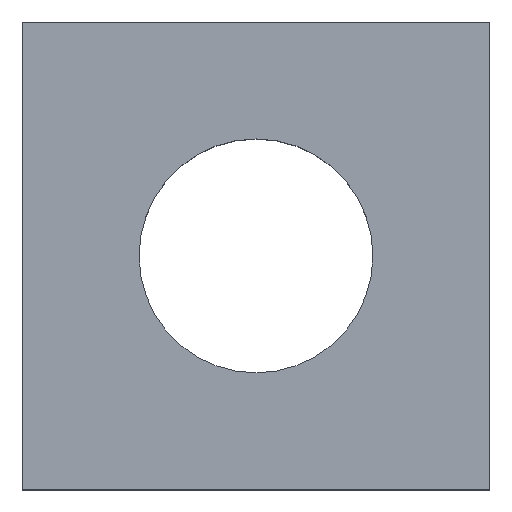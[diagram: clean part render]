
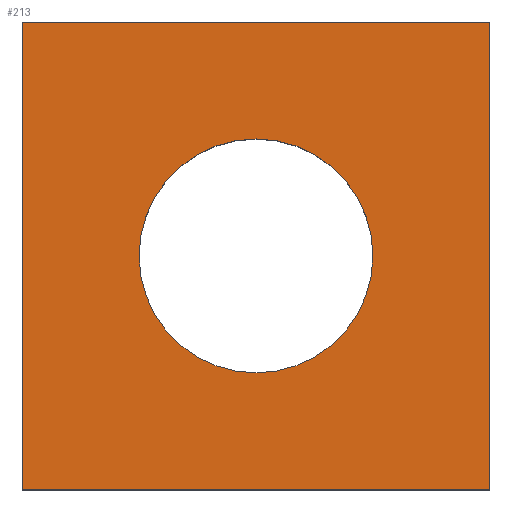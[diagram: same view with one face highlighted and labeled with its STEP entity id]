
A CAD part, top view. The second image highlights one B-rep face of the part: STEP entity #213.
In plain terms, the highlighted planar face has unit normal (0, 0, 1).
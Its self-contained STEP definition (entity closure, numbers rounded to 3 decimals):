
#24 = VERTEX_POINT('',#25);
#25 = CARTESIAN_POINT('',(12.,-22.793,-58.));
#32 = PLANE('',#33);
#33 = AXIS2_PLACEMENT_3D('',#34,#35,#36);
#34 = CARTESIAN_POINT('',(12.,-22.793,-59.2));
#35 = DIRECTION('',(1.,0.,-0.));
#36 = DIRECTION('',(0.,0.,1.));
#44 = PLANE('',#45);
#45 = AXIS2_PLACEMENT_3D('',#46,#47,#48);
#46 = CARTESIAN_POINT('',(12.,-22.793,-59.2));
#47 = DIRECTION('',(-0.,1.,0.));
#48 = DIRECTION('',(0.,0.,1.));
#85 = VERTEX_POINT('',#86);
#86 = CARTESIAN_POINT('',(12.,-18.793,-58.));
#100 = PLANE('',#101);
#101 = AXIS2_PLACEMENT_3D('',#102,#103,#104);
#102 = CARTESIAN_POINT('',(12.,-18.793,-59.2));
#103 = DIRECTION('',(-0.,1.,0.));
#104 = DIRECTION('',(0.,0.,1.));
#112 = EDGE_CURVE('',#24,#85,#113,.T.);
#113 = SURFACE_CURVE('',#114,(#118,#125),.PCURVE_S1.);
#114 = LINE('',#115,#116);
#115 = CARTESIAN_POINT('',(12.,-22.793,-58.));
#116 = VECTOR('',#117,1.);
#117 = DIRECTION('',(-0.,1.,0.));
#118 = PCURVE('',#32,#119);
#119 = DEFINITIONAL_REPRESENTATION('',(#120),#124);
#120 = LINE('',#121,#122);
#121 = CARTESIAN_POINT('',(1.2,0.));
#122 = VECTOR('',#123,1.);
#123 = DIRECTION('',(0.,-1.));
#124 = ( GEOMETRIC_REPRESENTATION_CONTEXT(2) 
PARAMETRIC_REPRESENTATION_CONTEXT() REPRESENTATION_CONTEXT('2D SPACE',''
  ) );
#125 = PCURVE('',#126,#131);
#126 = PLANE('',#127);
#127 = AXIS2_PLACEMENT_3D('',#128,#129,#130);
#128 = CARTESIAN_POINT('',(12.,-22.793,-58.));
#129 = DIRECTION('',(0.,0.,1.));
#130 = DIRECTION('',(1.,0.,-0.));
#131 = DEFINITIONAL_REPRESENTATION('',(#132),#136);
#132 = LINE('',#133,#134);
#133 = CARTESIAN_POINT('',(0.,0.));
#134 = VECTOR('',#135,1.);
#135 = DIRECTION('',(0.,1.));
#136 = ( GEOMETRIC_REPRESENTATION_CONTEXT(2) 
PARAMETRIC_REPRESENTATION_CONTEXT() REPRESENTATION_CONTEXT('2D SPACE',''
  ) );
#165 = EDGE_CURVE('',#24,#166,#168,.T.);
#166 = VERTEX_POINT('',#167);
#167 = CARTESIAN_POINT('',(16.,-22.793,-58.));
#168 = SURFACE_CURVE('',#169,(#173,#180),.PCURVE_S1.);
#169 = LINE('',#170,#171);
#170 = CARTESIAN_POINT('',(12.,-22.793,-58.));
#171 = VECTOR('',#172,1.);
#172 = DIRECTION('',(1.,0.,-0.));
#173 = PCURVE('',#44,#174);
#174 = DEFINITIONAL_REPRESENTATION('',(#175),#179);
#175 = LINE('',#176,#177);
#176 = CARTESIAN_POINT('',(1.2,0.));
#177 = VECTOR('',#178,1.);
#178 = DIRECTION('',(0.,1.));
#179 = ( GEOMETRIC_REPRESENTATION_CONTEXT(2) 
PARAMETRIC_REPRESENTATION_CONTEXT() REPRESENTATION_CONTEXT('2D SPACE',''
  ) );
#180 = PCURVE('',#126,#181);
#181 = DEFINITIONAL_REPRESENTATION('',(#182),#186);
#182 = LINE('',#183,#184);
#183 = CARTESIAN_POINT('',(0.,0.));
#184 = VECTOR('',#185,1.);
#185 = DIRECTION('',(1.,0.));
#186 = ( GEOMETRIC_REPRESENTATION_CONTEXT(2) 
PARAMETRIC_REPRESENTATION_CONTEXT() REPRESENTATION_CONTEXT('2D SPACE',''
  ) );
#202 = PLANE('',#203);
#203 = AXIS2_PLACEMENT_3D('',#204,#205,#206);
#204 = CARTESIAN_POINT('',(16.,-22.793,-59.2));
#205 = DIRECTION('',(1.,0.,-0.));
#206 = DIRECTION('',(0.,0.,1.));
#213 = ADVANCED_FACE('',(#214,#262),#126,.T.);
#214 = FACE_BOUND('',#215,.T.);
#215 = EDGE_LOOP('',(#216,#217,#218,#241));
#216 = ORIENTED_EDGE('',*,*,#112,.F.);
#217 = ORIENTED_EDGE('',*,*,#165,.T.);
#218 = ORIENTED_EDGE('',*,*,#219,.T.);
#219 = EDGE_CURVE('',#166,#220,#222,.T.);
#220 = VERTEX_POINT('',#221);
#221 = CARTESIAN_POINT('',(16.,-18.793,-58.));
#222 = SURFACE_CURVE('',#223,(#227,#234),.PCURVE_S1.);
#223 = LINE('',#224,#225);
#224 = CARTESIAN_POINT('',(16.,-22.793,-58.));
#225 = VECTOR('',#226,1.);
#226 = DIRECTION('',(-0.,1.,0.));
#227 = PCURVE('',#126,#228);
#228 = DEFINITIONAL_REPRESENTATION('',(#229),#233);
#229 = LINE('',#230,#231);
#230 = CARTESIAN_POINT('',(4.,0.));
#231 = VECTOR('',#232,1.);
#232 = DIRECTION('',(0.,1.));
#233 = ( GEOMETRIC_REPRESENTATION_CONTEXT(2) 
PARAMETRIC_REPRESENTATION_CONTEXT() REPRESENTATION_CONTEXT('2D SPACE',''
  ) );
#234 = PCURVE('',#202,#235);
#235 = DEFINITIONAL_REPRESENTATION('',(#236),#240);
#236 = LINE('',#237,#238);
#237 = CARTESIAN_POINT('',(1.2,0.));
#238 = VECTOR('',#239,1.);
#239 = DIRECTION('',(0.,-1.));
#240 = ( GEOMETRIC_REPRESENTATION_CONTEXT(2) 
PARAMETRIC_REPRESENTATION_CONTEXT() REPRESENTATION_CONTEXT('2D SPACE',''
  ) );
#241 = ORIENTED_EDGE('',*,*,#242,.F.);
#242 = EDGE_CURVE('',#85,#220,#243,.T.);
#243 = SURFACE_CURVE('',#244,(#248,#255),.PCURVE_S1.);
#244 = LINE('',#245,#246);
#245 = CARTESIAN_POINT('',(12.,-18.793,-58.));
#246 = VECTOR('',#247,1.);
#247 = DIRECTION('',(1.,0.,-0.));
#248 = PCURVE('',#126,#249);
#249 = DEFINITIONAL_REPRESENTATION('',(#250),#254);
#250 = LINE('',#251,#252);
#251 = CARTESIAN_POINT('',(0.,4.));
#252 = VECTOR('',#253,1.);
#253 = DIRECTION('',(1.,0.));
#254 = ( GEOMETRIC_REPRESENTATION_CONTEXT(2) 
PARAMETRIC_REPRESENTATION_CONTEXT() REPRESENTATION_CONTEXT('2D SPACE',''
  ) );
#255 = PCURVE('',#100,#256);
#256 = DEFINITIONAL_REPRESENTATION('',(#257),#261);
#257 = LINE('',#258,#259);
#258 = CARTESIAN_POINT('',(1.2,0.));
#259 = VECTOR('',#260,1.);
#260 = DIRECTION('',(0.,1.));
#261 = ( GEOMETRIC_REPRESENTATION_CONTEXT(2) 
PARAMETRIC_REPRESENTATION_CONTEXT() REPRESENTATION_CONTEXT('2D SPACE',''
  ) );
#262 = FACE_BOUND('',#263,.T.);
#263 = EDGE_LOOP('',(#264));
#264 = ORIENTED_EDGE('',*,*,#265,.F.);
#265 = EDGE_CURVE('',#266,#266,#268,.T.);
#266 = VERTEX_POINT('',#267);
#267 = CARTESIAN_POINT('',(15.,-20.793,-58.));
#268 = SURFACE_CURVE('',#269,(#274,#281),.PCURVE_S1.);
#269 = CIRCLE('',#270,1.);
#270 = AXIS2_PLACEMENT_3D('',#271,#272,#273);
#271 = CARTESIAN_POINT('',(14.,-20.793,-58.));
#272 = DIRECTION('',(0.,0.,1.));
#273 = DIRECTION('',(1.,0.,-0.));
#274 = PCURVE('',#126,#275);
#275 = DEFINITIONAL_REPRESENTATION('',(#276),#280);
#276 = CIRCLE('',#277,1.);
#277 = AXIS2_PLACEMENT_2D('',#278,#279);
#278 = CARTESIAN_POINT('',(2.,2.));
#279 = DIRECTION('',(1.,0.));
#280 = ( GEOMETRIC_REPRESENTATION_CONTEXT(2) 
PARAMETRIC_REPRESENTATION_CONTEXT() REPRESENTATION_CONTEXT('2D SPACE',''
  ) );
#281 = PCURVE('',#282,#287);
#282 = CYLINDRICAL_SURFACE('',#283,1.);
#283 = AXIS2_PLACEMENT_3D('',#284,#285,#286);
#284 = CARTESIAN_POINT('',(14.,-20.793,-59.4));
#285 = DIRECTION('',(0.,0.,1.));
#286 = DIRECTION('',(1.,0.,-0.));
#287 = DEFINITIONAL_REPRESENTATION('',(#288),#292);
#288 = LINE('',#289,#290);
#289 = CARTESIAN_POINT('',(0.,1.4));
#290 = VECTOR('',#291,1.);
#291 = DIRECTION('',(1.,0.));
#292 = ( GEOMETRIC_REPRESENTATION_CONTEXT(2) 
PARAMETRIC_REPRESENTATION_CONTEXT() REPRESENTATION_CONTEXT('2D SPACE',''
  ) );
